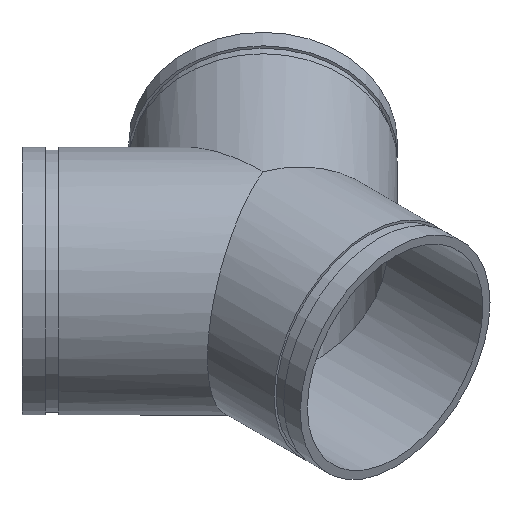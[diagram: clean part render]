
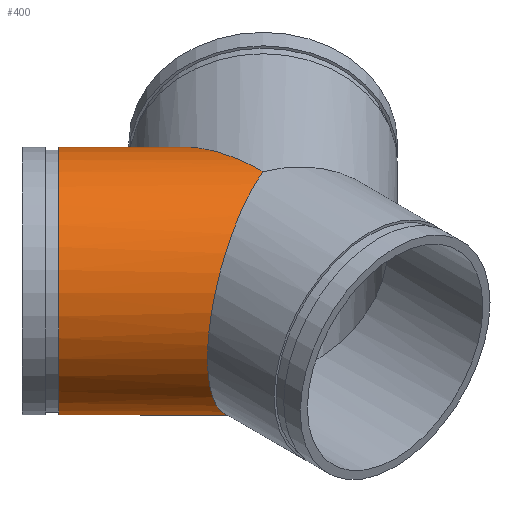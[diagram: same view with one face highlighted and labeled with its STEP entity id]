
A CAD part, isometric view. The second image highlights one B-rep face of the part: STEP entity #400.
In plain terms, the highlighted cylindrical face has radius 109.537 mm (diameter 219.075 mm), a full revolution.
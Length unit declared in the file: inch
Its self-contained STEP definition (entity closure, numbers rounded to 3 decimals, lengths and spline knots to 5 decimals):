
#76=FACE_OUTER_BOUND('',#103,.T.);
#103=EDGE_LOOP('',(#314,#315,#316,#317,#318,#319,#320,#321));
#118=ELLIPSE('',#470,6.0988,4.3125);
#119=ELLIPSE('',#471,4.66782,4.3125);
#120=ELLIPSE('',#472,4.66782,4.3125);
#121=ELLIPSE('',#473,6.0988,4.3125);
#131=LINE('',#735,#143);
#143=VECTOR('',#595,4.3125);
#156=CIRCLE('',#446,4.3125);
#157=CIRCLE('',#447,4.3125);
#186=VERTEX_POINT('',#686);
#187=VERTEX_POINT('',#687);
#202=VERTEX_POINT('',#730);
#203=VERTEX_POINT('',#731);
#204=VERTEX_POINT('',#733);
#205=VERTEX_POINT('',#736);
#223=EDGE_CURVE('',#186,#187,#156,.T.);
#224=EDGE_CURVE('',#187,#186,#157,.T.);
#243=EDGE_CURVE('',#202,#203,#118,.T.);
#244=EDGE_CURVE('',#204,#202,#119,.T.);
#245=EDGE_CURVE('',#204,#187,#131,.T.);
#246=EDGE_CURVE('',#205,#204,#120,.T.);
#247=EDGE_CURVE('',#203,#205,#121,.T.);
#314=ORIENTED_EDGE('',*,*,#243,.F.);
#315=ORIENTED_EDGE('',*,*,#244,.F.);
#316=ORIENTED_EDGE('',*,*,#245,.T.);
#317=ORIENTED_EDGE('',*,*,#224,.T.);
#318=ORIENTED_EDGE('',*,*,#223,.T.);
#319=ORIENTED_EDGE('',*,*,#245,.F.);
#320=ORIENTED_EDGE('',*,*,#246,.F.);
#321=ORIENTED_EDGE('',*,*,#247,.F.);
#359=CYLINDRICAL_SURFACE('',#469,4.3125);
#400=ADVANCED_FACE('',(#76),#359,.T.);
#446=AXIS2_PLACEMENT_3D('',#688,#539,#540);
#447=AXIS2_PLACEMENT_3D('',#689,#541,#542);
#469=AXIS2_PLACEMENT_3D('',#729,#589,#590);
#470=AXIS2_PLACEMENT_3D('',#732,#591,#592);
#471=AXIS2_PLACEMENT_3D('',#734,#593,#594);
#472=AXIS2_PLACEMENT_3D('',#737,#596,#597);
#473=AXIS2_PLACEMENT_3D('',#738,#598,#599);
#539=DIRECTION('center_axis',(0.707,-0.707,0.));
#540=DIRECTION('ref_axis',(0.707,0.707,0.));
#541=DIRECTION('center_axis',(0.707,-0.707,0.));
#542=DIRECTION('ref_axis',(0.707,0.707,0.));
#589=DIRECTION('center_axis',(0.707,-0.707,0.));
#590=DIRECTION('ref_axis',(0.707,0.707,0.));
#591=DIRECTION('center_axis',(1.,0.,0.));
#592=DIRECTION('ref_axis',(0.,1.,0.));
#593=DIRECTION('center_axis',(0.383,-0.924,0.));
#594=DIRECTION('ref_axis',(0.924,0.383,0.));
#595=DIRECTION('',(-0.707,0.707,0.));
#596=DIRECTION('center_axis',(0.383,-0.924,0.));
#597=DIRECTION('ref_axis',(0.924,0.383,0.));
#598=DIRECTION('center_axis',(1.,0.,0.));
#599=DIRECTION('ref_axis',(0.,1.,0.));
#686=CARTESIAN_POINT('',(-1.59064,7.68943,0.));
#687=CARTESIAN_POINT('',(-7.68943,1.59064,0.));
#688=CARTESIAN_POINT('Origin',(-4.64003,4.64003,0.));
#689=CARTESIAN_POINT('Origin',(-4.64003,4.64003,0.));
#729=CARTESIAN_POINT('Origin',(-5.48008,5.48008,0.));
#730=CARTESIAN_POINT('',(0.,0.,-4.3125));
#731=CARTESIAN_POINT('',(0.,6.0988,0.));
#732=CARTESIAN_POINT('Origin',(0.,0.,
0.));
#733=CARTESIAN_POINT('',(-4.3125,-1.7863,0.));
#734=CARTESIAN_POINT('Origin',(0.,0.,
0.));
#735=CARTESIAN_POINT('',(-8.52948,2.43068,0.));
#736=CARTESIAN_POINT('',(0.,0.,4.3125));
#737=CARTESIAN_POINT('Origin',(0.,0.,
0.));
#738=CARTESIAN_POINT('Origin',(0.,0.,
0.));
